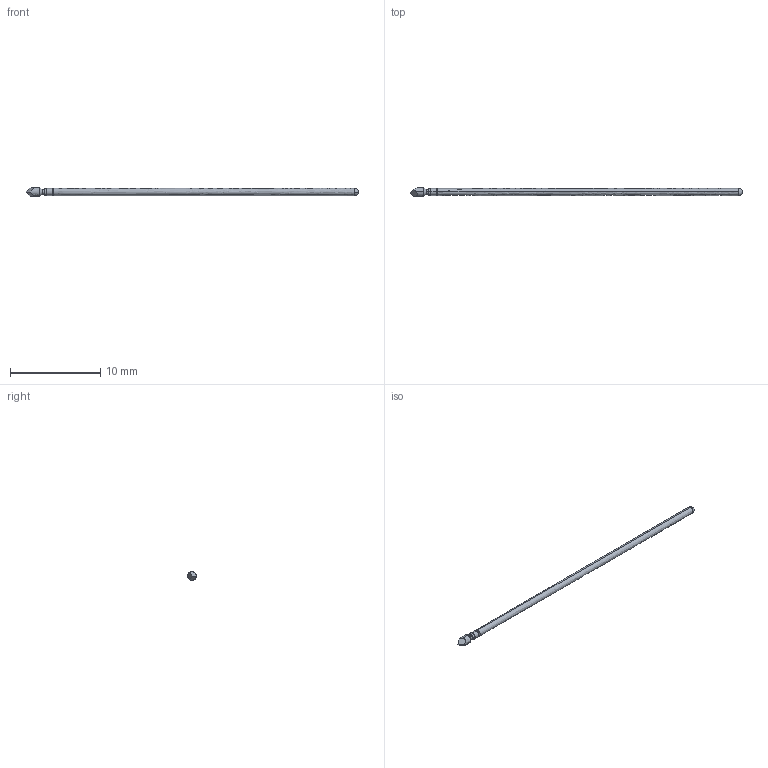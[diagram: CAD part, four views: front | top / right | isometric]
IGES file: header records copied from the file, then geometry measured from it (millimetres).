
Start section: SolidWorks IGES file using analytic representation for surfaces
Global section: file name: L:\probe solid model mockups\Solidworks models\POGO-72T38 Full.IGS; native system: SolidWorks 2006 by SolidWorks Corporation; preprocessor: SolidWorks 2006 by SolidWorks Corporation; author: Ksnyder; date: 071211.140134; units: inch
Bounding box: 36.83 x 0.97 x 0.97 mm (x, y, z)
Volume: 28.6 mm3; surface area: 174.3 mm2
Topology: 1 solids, 1 shells, 25 faces, 54 edges, 30 vertices
Faces by surface type: revolution 20, plane 5
